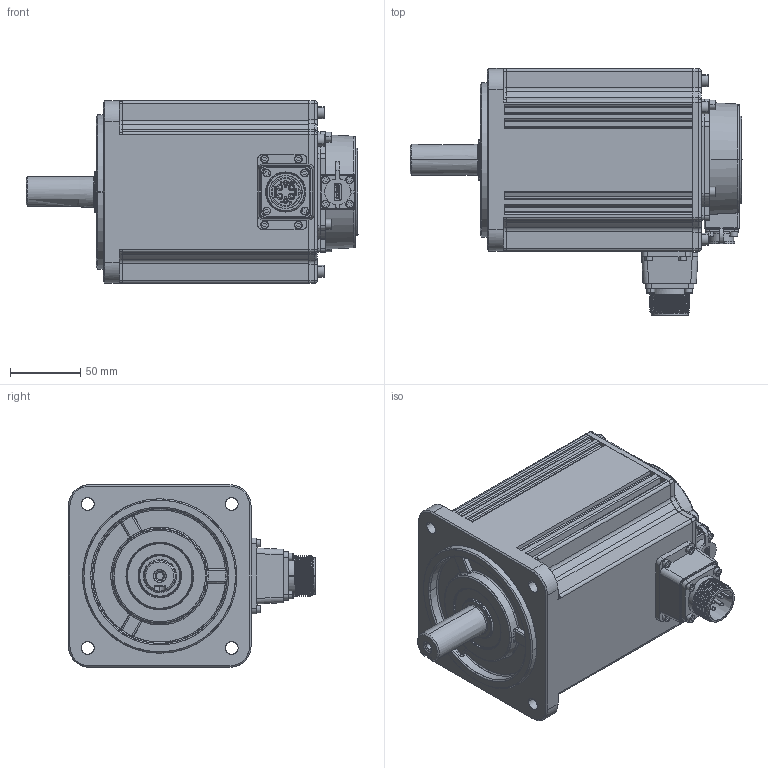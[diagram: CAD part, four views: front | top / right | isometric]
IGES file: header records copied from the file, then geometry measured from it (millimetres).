
Start section: SolidWorks IGES file using analytic representation for surfaces
Global section: file name: D:\xi\MS6G-130 油封\MS6G-130CS(M)(TL)15E2-42P3（14615）\MS6G-130CS(M)(TL)15B2-42P3（14615）\MS6G-130CS15E2-22P3.IGS; native system: SolidWorks 2022; preprocessor: SolidWorks 2022; author: xishengxian; date: 231011.090834; units: millimetre
Bounding box: 236.5 x 175.9 x 130 mm (x, y, z)
Surface area: 160305.3 mm2 (no closed solid volume)
Topology: 0 solids, 0 shells, 1059 faces, 13220 edges, 13199 vertices
Faces by surface type: bspline 661, revolution 398
